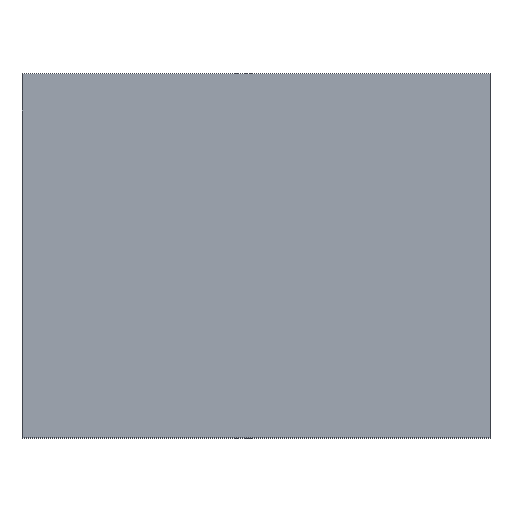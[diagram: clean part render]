
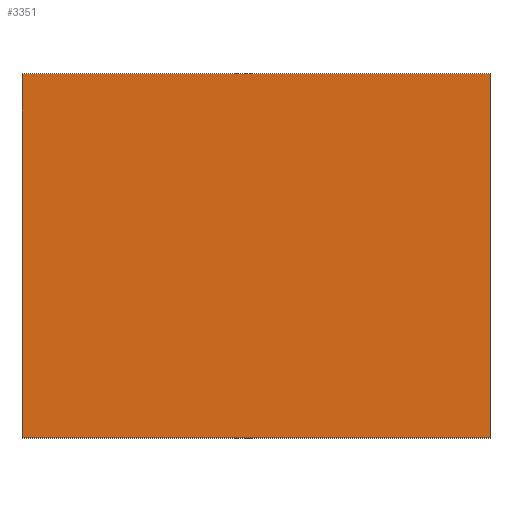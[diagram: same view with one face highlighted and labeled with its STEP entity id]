
A CAD part, top view. The second image highlights one B-rep face of the part: STEP entity #3351.
In plain terms, the highlighted planar face has unit normal (0, 0, 1).
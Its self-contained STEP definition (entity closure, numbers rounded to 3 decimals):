
#3215=CARTESIAN_POINT('Vertex',(112.5,87.5,45.)) ;
#3229=CARTESIAN_POINT('Vertex',(-112.5,87.5,45.)) ;
#3232=CARTESIAN_POINT('Line Origine',(0.,87.5,45.)) ;
#3260=CARTESIAN_POINT('Vertex',(-112.5,-87.5,45.)) ;
#3263=CARTESIAN_POINT('Line Origine',(-112.5,0.,45.)) ;
#3291=CARTESIAN_POINT('Vertex',(112.5,-87.5,45.)) ;
#3294=CARTESIAN_POINT('Line Origine',(0.,-87.5,45.)) ;
#3316=CARTESIAN_POINT('Line Origine',(112.5,0.,45.)) ;
#3340=CARTESIAN_POINT('Axis2P3D Location',(0.,0.,45.)) ;
#3233=DIRECTION('Vector Direction',(1.,0.,0.)) ;
#3264=DIRECTION('Vector Direction',(0.,1.,0.)) ;
#3295=DIRECTION('Vector Direction',(-1.,0.,0.)) ;
#3317=DIRECTION('Vector Direction',(0.,-1.,0.)) ;
#3341=DIRECTION('Axis2P3D Direction',(0.,0.,1.)) ;
#3342=DIRECTION('Axis2P3D XDirection',(1.,0.,0.)) ;
#3343=AXIS2_PLACEMENT_3D('Plane Axis2P3D',#3340,#3341,#3342) ;
#3346=ORIENTED_EDGE('',*,*,#3236,.T.) ;
#3347=ORIENTED_EDGE('',*,*,#3267,.T.) ;
#3348=ORIENTED_EDGE('',*,*,#3298,.T.) ;
#3349=ORIENTED_EDGE('',*,*,#3320,.T.) ;
#3234=VECTOR('Line Direction',#3233,1.) ;
#3265=VECTOR('Line Direction',#3264,1.) ;
#3296=VECTOR('Line Direction',#3295,1.) ;
#3318=VECTOR('Line Direction',#3317,1.) ;
#3351=ADVANCED_FACE('cavity',(#3350),#3344,.T.) ;
#3236=EDGE_CURVE('',#3216,#3230,#3235,.F.) ;
#3267=EDGE_CURVE('',#3230,#3261,#3266,.F.) ;
#3298=EDGE_CURVE('',#3261,#3292,#3297,.F.) ;
#3320=EDGE_CURVE('',#3292,#3216,#3319,.F.) ;
#3345=EDGE_LOOP('',(#3346,#3347,#3348,#3349)) ;
#3350=FACE_OUTER_BOUND('',#3345,.T.) ;
#3235=LINE('Line',#3232,#3234) ;
#3266=LINE('Line',#3263,#3265) ;
#3297=LINE('Line',#3294,#3296) ;
#3319=LINE('Line',#3316,#3318) ;
#3344=PLANE('Plane',#3343) ;
#3216=VERTEX_POINT('',#3215) ;
#3230=VERTEX_POINT('',#3229) ;
#3261=VERTEX_POINT('',#3260) ;
#3292=VERTEX_POINT('',#3291) ;
